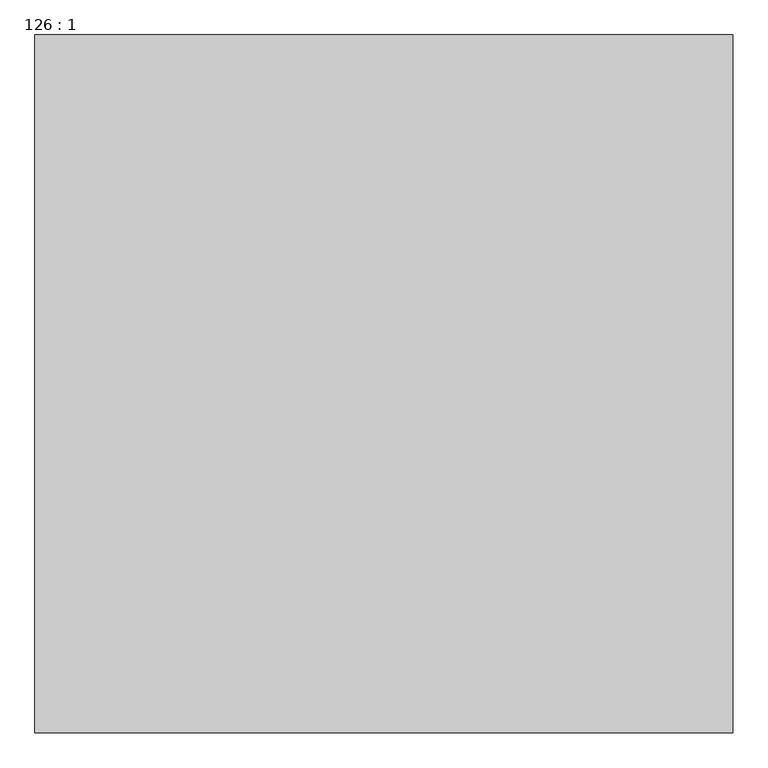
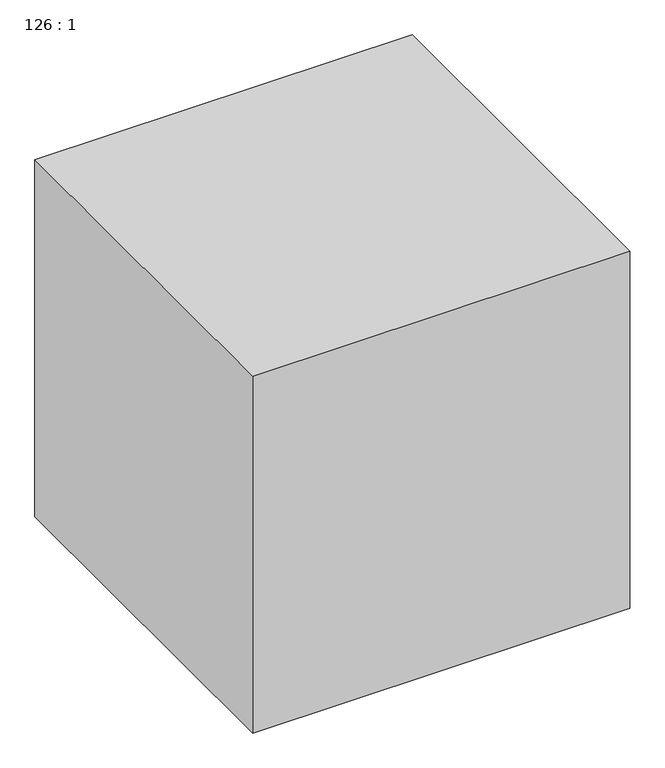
"""IFC4 building model written with IfcOpenShell, lengths in millimetres: proxy geometry, 126 : 1."""

from ifc_helpers import new_model, si_unit, origin, origin_with_axes, place, context, project, spatial, polyline, outline, extrude, source, transform, mapped, element, save


def proxy_126_1_2db42401(model_context):
    return source(origin(), model_context, "Body", "SweptSolid", [
        extrude(outline(polyline([(15692.0243292, -664.7705528), (15692.0243292, -1664.7705528), (14692.0243292, -1664.7705528), (14692.0243292, -664.7705528), (15692.0243292, -664.7705528)])), origin_with_axes(), (0.0, 0.0, 1.0), 1000.0),
    ])


if __name__ == "__main__":
    model = new_model("IFC4")
    model_context = context("Model", 3, world=origin())
    ifc_project = project(units=[si_unit("LENGTHUNIT", "METRE", prefix="MILLI")], contexts=[model_context])
    site = spatial("IfcSite", under=ifc_project)
    building = spatial("IfcBuilding", under=site)
    placement = place(None, origin())
    proxy_126_1_shape = proxy_126_1_2db42401(model_context)
    element("IfcBuildingElementProxy", 1, Name="126 : 1", ObjectType="126 : 1", at=placement, inside=building, context=model_context, shape_type="MappedRepresentation", body=[
        mapped(proxy_126_1_shape, transform((0.0, 0.0, 0.0), x_axis=(1.0, 0.0, 0.0), y_axis=(0.0, 1.0, 0.0), z_axis=(0.0, 0.0, 1.0))),
    ])
    save(model, "model.ifc")
